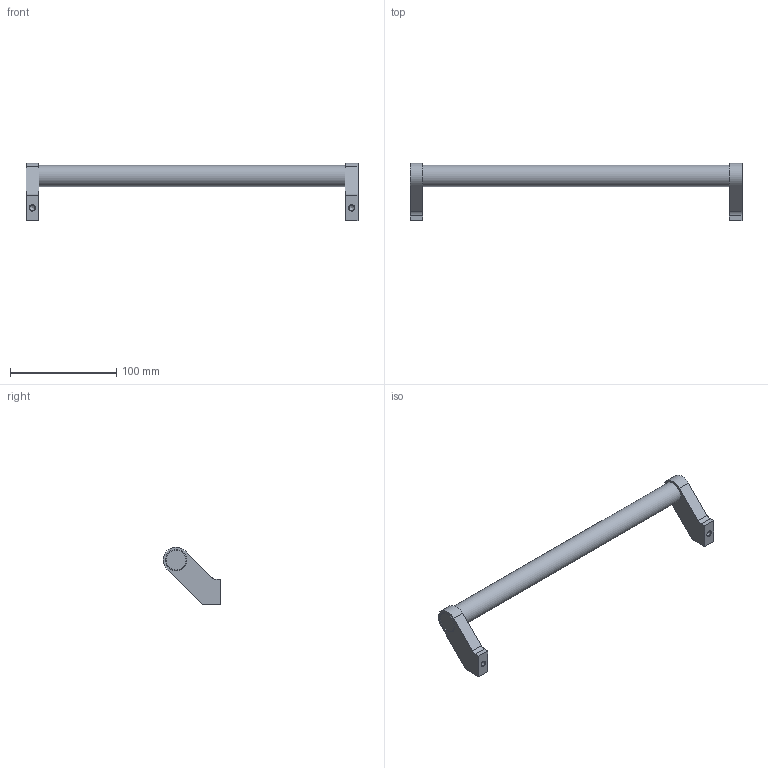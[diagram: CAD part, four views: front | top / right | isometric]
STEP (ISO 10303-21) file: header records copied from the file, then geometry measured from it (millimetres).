
FILE_DESCRIPTION( ( 'STEP AP203' ), '1' );
FILE_NAME( 'C:/Temp/Ganter_Step_05_03_2020/data/1_2/gn333/Tubular handle GN 333-20-300-A-ES.stp', '2020-03-05T10:16:10', ( 'License CC BY-ND 4.0' ), ( 'CADENAS' ), ' ', 'PARTsolutions', ' ' );
FILE_SCHEMA( ( 'CONFIG_CONTROL_DESIGN' ) );
Length unit declared in the file: millimetre
Products named in the file (1): _Tubular handle GN 333-20-300-A-ES
Bounding box: 312 x 53.95 x 53.95 mm (x, y, z)
Volume: 126725.9 mm3; surface area: 28201.2 mm2
Topology: 1 solids, 1 shells, 33 faces, 77 edges, 50 vertices
Faces by surface type: plane 16, cylinder 11, cone 4, torus 2
Full cylindrical faces by diameter (mm): 4.917 x2, 20 x3
Entity records: 906 total; most frequent: DIRECTION 156, CARTESIAN_POINT 144, ORIENTED_EDGE 124, EDGE_CURVE 62, AXIS2_PLACEMENT_3D 60, EDGE_LOOP 48, VERTEX_POINT 48, FACE_OUTER_BOUND 40
